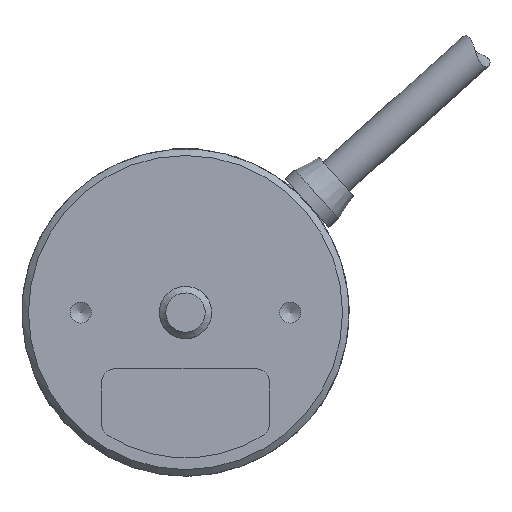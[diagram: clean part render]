
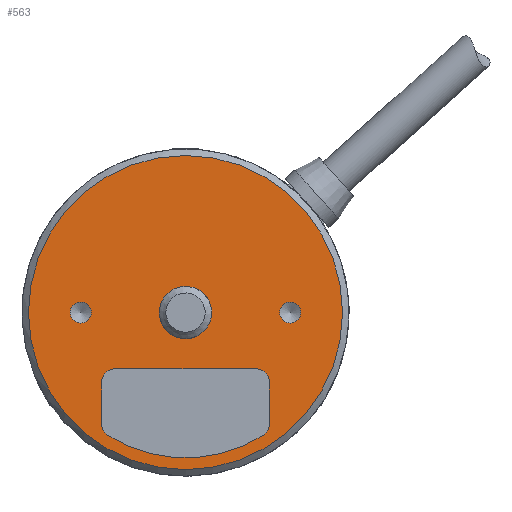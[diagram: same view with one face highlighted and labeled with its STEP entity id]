
A CAD part, left-side view. The second image highlights one B-rep face of the part: STEP entity #563.
In plain terms, the highlighted planar face has unit normal (-1, 0, 0).
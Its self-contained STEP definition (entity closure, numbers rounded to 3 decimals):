
#563=ADVANCED_FACE('',(#903,#904,#905,#906,#907),#908,.T.);
#903=FACE_BOUND('',#1337,.T.);
#904=FACE_BOUND('',#1338,.T.);
#905=FACE_OUTER_BOUND('',#1339,.T.);
#906=FACE_BOUND('',#1340,.T.);
#907=FACE_BOUND('',#1341,.T.);
#908=PLANE('',#1342);
#1337=EDGE_LOOP('',(#1927));
#1338=EDGE_LOOP('',(#1928));
#1339=EDGE_LOOP('',(#1929));
#1340=EDGE_LOOP('',(#1930));
#1341=EDGE_LOOP('',(#1931,#1932,#1933,#1934,#1935,#1936,#1937,#1938));
#1342=AXIS2_PLACEMENT_3D('',#1939,#1940,#1941);
#1927=ORIENTED_EDGE('',*,*,#2809,.F.);
#1928=ORIENTED_EDGE('',*,*,#2810,.F.);
#1929=ORIENTED_EDGE('',*,*,#2811,.T.);
#1930=ORIENTED_EDGE('',*,*,#2812,.T.);
#1931=ORIENTED_EDGE('',*,*,#2813,.T.);
#1932=ORIENTED_EDGE('',*,*,#2814,.T.);
#1933=ORIENTED_EDGE('',*,*,#2815,.T.);
#1934=ORIENTED_EDGE('',*,*,#2816,.T.);
#1935=ORIENTED_EDGE('',*,*,#2817,.T.);
#1936=ORIENTED_EDGE('',*,*,#2818,.T.);
#1937=ORIENTED_EDGE('',*,*,#2819,.T.);
#1938=ORIENTED_EDGE('',*,*,#2820,.T.);
#1939=CARTESIAN_POINT('',(0.0,0.,0.));
#1940=DIRECTION('',(-1.0,0.0,0.0));
#1941=DIRECTION('',(0.0,-1.0,0.0));
#2809=EDGE_CURVE('',#3202,#3202,#3203,.T.);
#2810=EDGE_CURVE('',#3204,#3204,#3205,.T.);
#2811=EDGE_CURVE('',#3206,#3206,#3207,.F.);
#2812=EDGE_CURVE('',#3208,#3208,#3209,.F.);
#2813=EDGE_CURVE('',#3210,#3211,#3212,.T.);
#2814=EDGE_CURVE('',#3211,#3213,#3214,.T.);
#2815=EDGE_CURVE('',#3213,#3215,#3216,.T.);
#2816=EDGE_CURVE('',#3215,#3217,#3218,.T.);
#2817=EDGE_CURVE('',#3217,#3219,#3220,.T.);
#2818=EDGE_CURVE('',#3219,#3221,#3222,.T.);
#2819=EDGE_CURVE('',#3221,#3223,#3224,.T.);
#2820=EDGE_CURVE('',#3223,#3210,#3225,.T.);
#3202=VERTEX_POINT('',#3791);
#3203=CIRCLE('',#3792,0.8);
#3204=VERTEX_POINT('',#3793);
#3205=CIRCLE('',#3794,0.8);
#3206=VERTEX_POINT('',#3795);
#3207=CIRCLE('',#3796,12.0);
#3208=VERTEX_POINT('',#3797);
#3209=CIRCLE('',#3798,2.0);
#3210=VERTEX_POINT('',#3799);
#3211=VERTEX_POINT('',#3800);
#3212=LINE('',#3801,#3802);
#3213=VERTEX_POINT('',#3803);
#3214=CIRCLE('',#3804,1.0);
#3215=VERTEX_POINT('',#3805);
#3216=LINE('',#3806,#3807);
#3217=VERTEX_POINT('',#3808);
#3218=CIRCLE('',#3809,1.0);
#3219=VERTEX_POINT('',#3810);
#3220=LINE('',#3811,#3812);
#3221=VERTEX_POINT('',#3813);
#3222=CIRCLE('',#3814,1.0);
#3223=VERTEX_POINT('',#3815);
#3224=CIRCLE('',#3816,11.1);
#3225=CIRCLE('',#3817,1.0);
#3791=CARTESIAN_POINT('',(0.0,7.2,0.0));
#3792=AXIS2_PLACEMENT_3D('',#4858,#4859,#4860);
#3793=CARTESIAN_POINT('',(0.0,-8.8,0.0));
#3794=AXIS2_PLACEMENT_3D('',#4861,#4862,#4863);
#3795=CARTESIAN_POINT('',(0.,0.,-12.0));
#3796=AXIS2_PLACEMENT_3D('',#4864,#4865,#4866);
#3797=CARTESIAN_POINT('',(0.0,0.,2.0));
#3798=AXIS2_PLACEMENT_3D('',#4867,#4868,#4869);
#3799=CARTESIAN_POINT('',(0.,6.4,-8.535));
#3800=CARTESIAN_POINT('',(0.0,6.4,-5.3));
#3801=CARTESIAN_POINT('',(0.,6.4,-6.918));
#3802=VECTOR('',#4870,1.0);
#3803=CARTESIAN_POINT('',(0.,5.4,-4.3));
#3804=AXIS2_PLACEMENT_3D('',#4871,#4872,#4873);
#3805=CARTESIAN_POINT('',(0.,-5.4,-4.3));
#3806=CARTESIAN_POINT('',(0.,0.,-4.3));
#3807=VECTOR('',#4874,1.0);
#3808=CARTESIAN_POINT('',(0.,-6.4,-5.3));
#3809=AXIS2_PLACEMENT_3D('',#4875,#4876,#4877);
#3810=CARTESIAN_POINT('',(0.,-6.4,-8.535));
#3811=CARTESIAN_POINT('',(0.,-6.4,-6.918));
#3812=VECTOR('',#4878,1.0);
#3813=CARTESIAN_POINT('',(0.,-5.935,-9.38));
#3814=AXIS2_PLACEMENT_3D('',#4879,#4880,#4881);
#3815=CARTESIAN_POINT('',(0.,5.935,-9.38));
#3816=AXIS2_PLACEMENT_3D('',#4882,#4883,#4884);
#3817=AXIS2_PLACEMENT_3D('',#4885,#4886,#4887);
#4858=CARTESIAN_POINT('',(0.0,8.0,0.0));
#4859=DIRECTION('',(-1.0,0.0,0.0));
#4860=DIRECTION('',(0.0,-1.0,0.0));
#4861=CARTESIAN_POINT('',(0.0,-8.0,0.0));
#4862=DIRECTION('',(-1.0,0.0,0.0));
#4863=DIRECTION('',(0.0,-1.0,0.0));
#4864=CARTESIAN_POINT('',(0.,0.0,0.0));
#4865=DIRECTION('',(1.0,0.0,0.0));
#4866=DIRECTION('',(0.0,0.0,-1.0));
#4867=CARTESIAN_POINT('',(0.0,0.,0.));
#4868=DIRECTION('',(-1.0,0.0,0.0));
#4869=DIRECTION('',(0.0,0.0,1.0));
#4870=DIRECTION('',(0.,0.,1.0));
#4871=CARTESIAN_POINT('',(0.,5.4,-5.3));
#4872=DIRECTION('',(1.0,0.,0.));
#4873=DIRECTION('',(0.,1.0,0.));
#4874=DIRECTION('',(0.,-1.0,0.));
#4875=CARTESIAN_POINT('',(0.,-5.4,-5.3));
#4876=DIRECTION('',(1.0,0.,0.));
#4877=DIRECTION('',(0.,1.0,0.));
#4878=DIRECTION('',(0.,0.,-1.0));
#4879=CARTESIAN_POINT('',(0.,-5.4,-8.535));
#4880=DIRECTION('',(1.0,0.,0.));
#4881=DIRECTION('',(0.,1.0,0.));
#4882=CARTESIAN_POINT('',(0.,0.,0.));
#4883=DIRECTION('',(1.0,0.,0.));
#4884=DIRECTION('',(0.,1.0,0.));
#4885=CARTESIAN_POINT('',(0.,5.4,-8.535));
#4886=DIRECTION('',(1.0,0.,0.));
#4887=DIRECTION('',(0.,1.0,0.));
